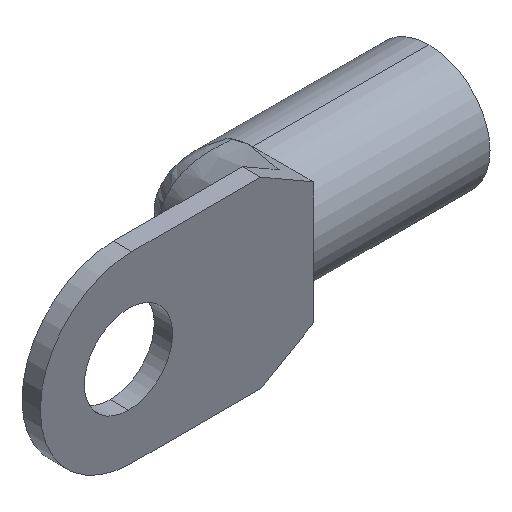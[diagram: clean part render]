
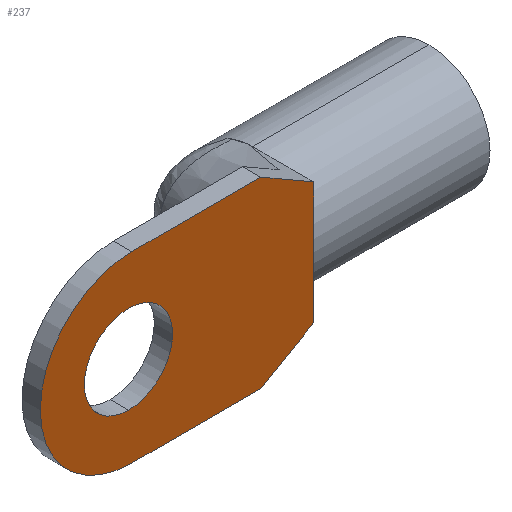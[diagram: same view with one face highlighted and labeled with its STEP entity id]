
A CAD part, isometric view. The second image highlights one B-rep face of the part: STEP entity #237.
In plain terms, the highlighted planar face has unit normal (0, -1, 0).
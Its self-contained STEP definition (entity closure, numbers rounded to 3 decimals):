
#26 = CARTESIAN_POINT ( 'NONE',  ( -26.8, 0., 13.5 ) ) ;
#29 = EDGE_CURVE ( 'NONE', #877, #760, #888, .T. ) ;
#42 = DIRECTION ( 'NONE',  ( 0., 0., 1. ) ) ;
#45 = VECTOR ( 'NONE', #844, 1000. ) ;
#56 = LINE ( 'NONE', #202, #254 ) ;
#68 = VERTEX_POINT ( 'NONE', #26 ) ;
#74 = ORIENTED_EDGE ( 'NONE', *, *, #329, .T. ) ;
#76 = EDGE_CURVE ( 'NONE', #949, #817, #301, .T. ) ;
#88 = AXIS2_PLACEMENT_3D ( 'NONE', #338, #486, #42 ) ;
#91 = ORIENTED_EDGE ( 'NONE', *, *, #886, .T. ) ;
#108 = FACE_OUTER_BOUND ( 'NONE', #194, .T. ) ;
#126 = ORIENTED_EDGE ( 'NONE', *, *, #802, .T. ) ;
#132 = VERTEX_POINT ( 'NONE', #260 ) ;
#143 = CARTESIAN_POINT ( 'NONE',  ( -27.3, 0., 6.5 ) ) ;
#169 = ORIENTED_EDGE ( 'NONE', *, *, #29, .T. ) ;
#171 = CARTESIAN_POINT ( 'NONE',  ( -27.3, 0., 0. ) ) ;
#174 = EDGE_CURVE ( 'NONE', #760, #502, #527, .T. ) ;
#194 = EDGE_LOOP ( 'NONE', ( #91, #74, #315, #532, #126, #169, #682 ) ) ;
#202 = CARTESIAN_POINT ( 'NONE',  ( -7.794, 0., 13.5 ) ) ;
#205 = CARTESIAN_POINT ( 'NONE',  ( -27.3, 0., 0. ) ) ;
#217 = DIRECTION ( 'NONE',  ( 0., -1., 0. ) ) ;
#223 = CARTESIAN_POINT ( 'NONE',  ( 0., 0., -9. ) ) ;
#228 = CARTESIAN_POINT ( 'NONE',  ( -27.3, 0., -6.5 ) ) ;
#237 = ADVANCED_FACE ( 'NONE', ( #108, #678 ), #266, .F. ) ;
#239 = LINE ( 'NONE', #321, #45 ) ;
#244 = VERTEX_POINT ( 'NONE', #789 ) ;
#254 = VECTOR ( 'NONE', #362, 1000. ) ;
#255 = DIRECTION ( 'NONE',  ( 0., 0., -1. ) ) ;
#260 = CARTESIAN_POINT ( 'NONE',  ( 0., 0., 0. ) ) ;
#266 = PLANE ( 'NONE',  #88 ) ;
#289 = DIRECTION ( 'NONE',  ( 0., 0., -1. ) ) ;
#296 = EDGE_CURVE ( 'NONE', #384, #244, #459, .T. ) ;
#301 = CIRCLE ( 'NONE', #457, 6.5 ) ;
#315 = ORIENTED_EDGE ( 'NONE', *, *, #296, .T. ) ;
#321 = CARTESIAN_POINT ( 'NONE',  ( 0., 0., -9. ) ) ;
#329 = EDGE_CURVE ( 'NONE', #132, #384, #239, .T. ) ;
#333 = VECTOR ( 'NONE', #854, 1000. ) ;
#334 = VECTOR ( 'NONE', #604, 1000. ) ;
#338 = CARTESIAN_POINT ( 'NONE',  ( 0., 0., 0. ) ) ;
#362 = DIRECTION ( 'NONE',  ( -1., 0., 0. ) ) ;
#378 = CIRCLE ( 'NONE', #693, 13.5 ) ;
#384 = VERTEX_POINT ( 'NONE', #417 ) ;
#390 = CARTESIAN_POINT ( 'NONE',  ( 0., 0., 9. ) ) ;
#417 = CARTESIAN_POINT ( 'NONE',  ( 0., 0., 9. ) ) ;
#442 = CARTESIAN_POINT ( 'NONE',  ( -7.794, 0., -13.5 ) ) ;
#445 = CIRCLE ( 'NONE', #842, 6.5 ) ;
#453 = EDGE_LOOP ( 'NONE', ( #462, #617 ) ) ;
#457 = AXIS2_PLACEMENT_3D ( 'NONE', #171, #698, #255 ) ;
#459 = LINE ( 'NONE', #390, #634 ) ;
#462 = ORIENTED_EDGE ( 'NONE', *, *, #76, .F. ) ;
#463 = DIRECTION ( 'NONE',  ( 1., 0., 0. ) ) ;
#486 = DIRECTION ( 'NONE',  ( 0., 1., 0. ) ) ;
#502 = VERTEX_POINT ( 'NONE', #741 ) ;
#525 = CARTESIAN_POINT ( 'NONE',  ( -26.8, 0., -13.5 ) ) ;
#527 = LINE ( 'NONE', #626, #333 ) ;
#532 = ORIENTED_EDGE ( 'NONE', *, *, #650, .T. ) ;
#557 = LINE ( 'NONE', #223, #334 ) ;
#604 = DIRECTION ( 'NONE',  ( 0., 0., 1. ) ) ;
#617 = ORIENTED_EDGE ( 'NONE', *, *, #677, .F. ) ;
#626 = CARTESIAN_POINT ( 'NONE',  ( 0., 0., -9. ) ) ;
#634 = VECTOR ( 'NONE', #767, 1000. ) ;
#650 = EDGE_CURVE ( 'NONE', #244, #68, #56, .T. ) ;
#669 = CARTESIAN_POINT ( 'NONE',  ( -26.8, 0., 0. ) ) ;
#677 = EDGE_CURVE ( 'NONE', #817, #949, #445, .T. ) ;
#678 = FACE_BOUND ( 'NONE', #453, .T. ) ;
#682 = ORIENTED_EDGE ( 'NONE', *, *, #174, .T. ) ;
#693 = AXIS2_PLACEMENT_3D ( 'NONE', #669, #217, #748 ) ;
#698 = DIRECTION ( 'NONE',  ( 0., -1., 0. ) ) ;
#702 = VECTOR ( 'NONE', #463, 1000. ) ;
#735 = DIRECTION ( 'NONE',  ( 0., -1., 0. ) ) ;
#741 = CARTESIAN_POINT ( 'NONE',  ( 0., 0., -9. ) ) ;
#748 = DIRECTION ( 'NONE',  ( 0., 0., 1. ) ) ;
#760 = VERTEX_POINT ( 'NONE', #442 ) ;
#767 = DIRECTION ( 'NONE',  ( -0.866, 0., 0.5 ) ) ;
#789 = CARTESIAN_POINT ( 'NONE',  ( -7.794, 0., 13.5 ) ) ;
#802 = EDGE_CURVE ( 'NONE', #68, #877, #378, .T. ) ;
#817 = VERTEX_POINT ( 'NONE', #143 ) ;
#842 = AXIS2_PLACEMENT_3D ( 'NONE', #205, #735, #289 ) ;
#844 = DIRECTION ( 'NONE',  ( 0., 0., 1. ) ) ;
#854 = DIRECTION ( 'NONE',  ( 0.866, 0., 0.5 ) ) ;
#877 = VERTEX_POINT ( 'NONE', #525 ) ;
#886 = EDGE_CURVE ( 'NONE', #502, #132, #557, .T. ) ;
#888 = LINE ( 'NONE', #908, #702 ) ;
#908 = CARTESIAN_POINT ( 'NONE',  ( -7.794, 0., -13.5 ) ) ;
#949 = VERTEX_POINT ( 'NONE', #228 ) ;
